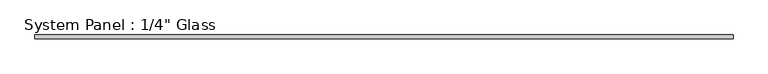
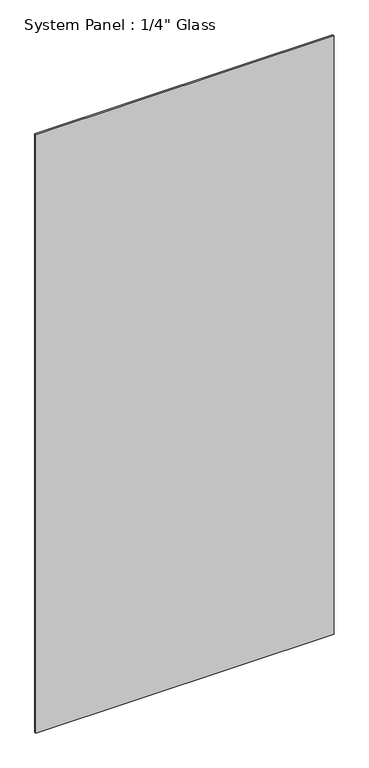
"""IFC4 building model written with IfcOpenShell, lengths in millimetres: plate geometry."""

from ifc_helpers import new_model, si_unit, origin, origin_with_axes, place, context, project, spatial, polyline, outline, extrude, source, transform, mapped, element, save


def plate_903242d9(model_context):
    return source(origin(), model_context, "Body", "SweptSolid", [
        extrude(outline(polyline([(586.8102074, -3.175), (-586.8102074, -3.175), (-586.8102074, 3.175), (586.8102074, 3.175), (586.8102074, -3.175)])), origin_with_axes(), (0.0, 0.0, 1.0), 2489.2),
    ])


if __name__ == "__main__":
    model = new_model("IFC4")
    model_context = context("Model", 3, world=origin())
    ifc_project = project(units=[si_unit("LENGTHUNIT", "METRE", prefix="MILLI")], contexts=[model_context])
    site = spatial("IfcSite", under=ifc_project)
    building = spatial("IfcBuilding", under=site)
    placement = place(None, origin())
    plate_shape = plate_903242d9(model_context)
    element("IfcPlate", 1, ObjectType="System Panel : 1/4\" Glass", at=placement, inside=building, context=model_context, shape_type="MappedRepresentation", body=[
        mapped(plate_shape, transform((0.0, 0.0, 0.0), x_axis=(1.0, 0.0, 0.0), y_axis=(0.0, 1.0, 0.0), z_axis=(0.0, 0.0, 1.0))),
    ])
    save(model, "model.ifc")
